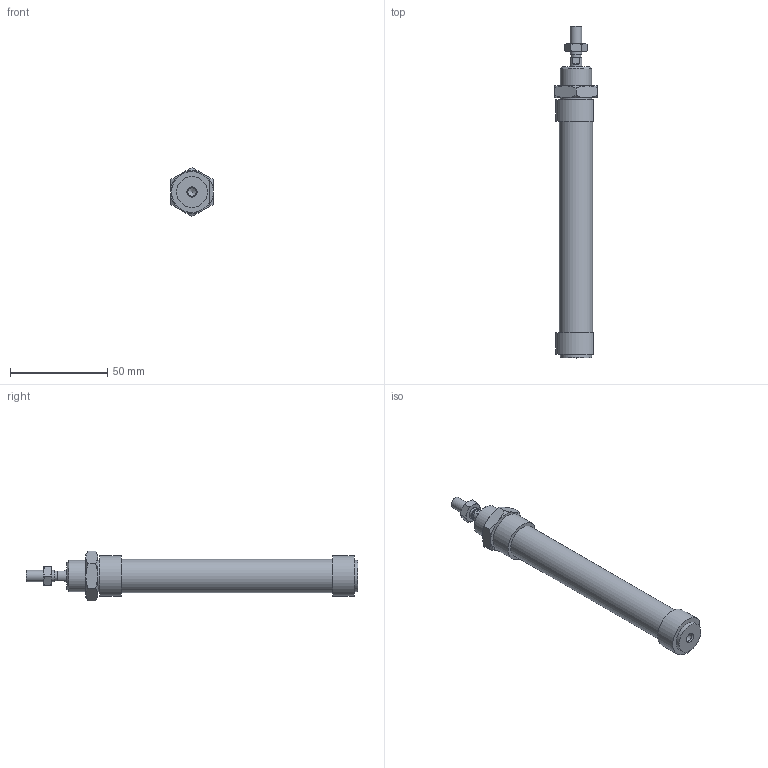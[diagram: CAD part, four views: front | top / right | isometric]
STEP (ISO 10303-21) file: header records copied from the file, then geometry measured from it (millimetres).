
FILE_DESCRIPTION((''),'2;1');
FILE_NAME('I:\Area Tecnica\Disegni\VARIE-3D\Componenti\1280\1281_##_####_#\1281_16_0075.iam.stp','2009-06-04T09:38:31',(''),(''),'Autodesk Inventor 2010','Autodesk Inventor 2010','');
FILE_SCHEMA(('AUTOMOTIVE_DESIGN { 1 0 10303 214 1 1 1 1 }'));
Length unit declared in the file: millimetre
Products named in the file (5): 1281_16_0075; C1281_16_75; S1280_16_75; 1200_16_05; 1200_16_06
Assembly tree (4 placements, depth 2):
  1281_16_0075
    C1281_16_75
    S1280_16_75
    1200_16_05
    1200_16_06
Bounding box: 22 x 171 x 25.4 mm (x, y, z)
Volume: 38579.4 mm3; surface area: 15149.9 mm2
Topology: 4 solids, 4 shells, 83 faces, 169 edges, 102 vertices
Faces by surface type: plane 34, cone 26, bspline 14, cylinder 9
Full cylindrical faces by diameter (mm): 5 x1, 6 x3, 16 x2, 17.2 x1
Entity records: 2370 total; most frequent: CARTESIAN_POINT 636, DIRECTION 314, ORIENTED_EDGE 284, AXIS2_PLACEMENT_3D 142, EDGE_CURVE 142, EDGE_LOOP 116, VERTEX_POINT 96, STYLED_ITEM 87
